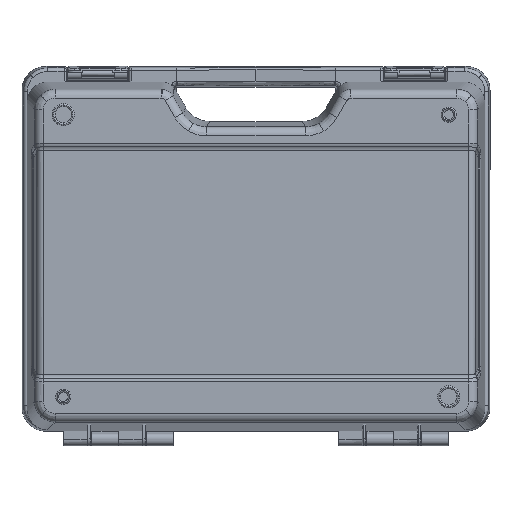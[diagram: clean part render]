
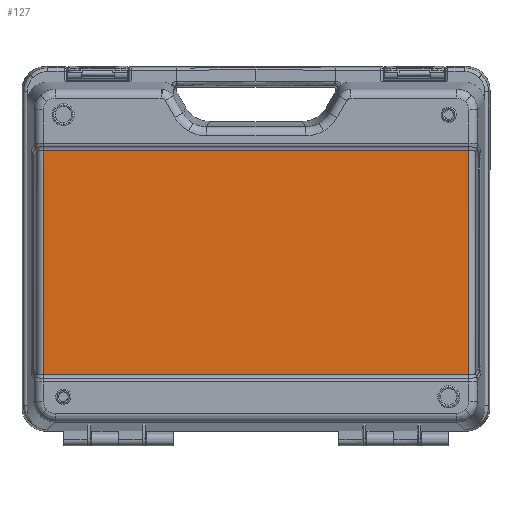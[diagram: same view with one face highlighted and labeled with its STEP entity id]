
A CAD part, front view. The second image highlights one B-rep face of the part: STEP entity #127.
In plain terms, the highlighted planar face has unit normal (0, -1, 0).
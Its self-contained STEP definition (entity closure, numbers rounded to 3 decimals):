
#127 = ADVANCED_FACE ( 'NONE', ( #34428 ), #36496, .T. ) ;
#216 = VERTEX_POINT ( 'NONE', #30732 ) ;
#727 = DIRECTION ( 'NONE',  ( 0., 0., -1. ) ) ;
#1133 = VECTOR ( 'NONE', #11629, 1000. ) ;
#1729 = CARTESIAN_POINT ( 'NONE',  ( 154.463, -79.5, 76.429 ) ) ;
#2067 = EDGE_CURVE ( 'NONE', #25756, #2828, #7592, .T. ) ;
#2285 = DIRECTION ( 'NONE',  ( -1., 0., 0. ) ) ;
#2678 = EDGE_CURVE ( 'NONE', #30421, #25756, #18341, .T. ) ;
#2828 = VERTEX_POINT ( 'NONE', #1729 ) ;
#5035 = CARTESIAN_POINT ( 'NONE',  ( 154.463, -79.5, -90. ) ) ;
#5373 = VECTOR ( 'NONE', #2285, 1000. ) ;
#5580 = DIRECTION ( 'NONE',  ( 1., 0., 0. ) ) ;
#7592 = LINE ( 'NONE', #5035, #1133 ) ;
#10414 = DIRECTION ( 'NONE',  ( 0., 0., -1. ) ) ;
#11146 = ORIENTED_EDGE ( 'NONE', *, *, #37750, .T. ) ;
#11629 = DIRECTION ( 'NONE',  ( 0., 0., 1. ) ) ;
#11671 = CARTESIAN_POINT ( 'NONE',  ( 154.463, -79.5, -86.429 ) ) ;
#11865 = CARTESIAN_POINT ( 'NONE',  ( -154.463, -79.5, 76.429 ) ) ;
#13579 = EDGE_CURVE ( 'NONE', #216, #30421, #25534, .T. ) ;
#17290 = ORIENTED_EDGE ( 'NONE', *, *, #2067, .T. ) ;
#18341 = LINE ( 'NONE', #28402, #31165 ) ;
#20622 = CARTESIAN_POINT ( 'NONE',  ( -175., -79.5, -90. ) ) ;
#25534 = LINE ( 'NONE', #38608, #28061 ) ;
#25756 = VERTEX_POINT ( 'NONE', #11671 ) ;
#27289 = DIRECTION ( 'NONE',  ( 0., -1., 0. ) ) ;
#28061 = VECTOR ( 'NONE', #727, 1000. ) ;
#28343 = AXIS2_PLACEMENT_3D ( 'NONE', #20622, #27289, #10414 ) ;
#28402 = CARTESIAN_POINT ( 'NONE',  ( 154.463, -79.5, -86.429 ) ) ;
#30421 = VERTEX_POINT ( 'NONE', #30980 ) ;
#30732 = CARTESIAN_POINT ( 'NONE',  ( -154.463, -79.5, 76.429 ) ) ;
#30980 = CARTESIAN_POINT ( 'NONE',  ( -154.463, -79.5, -86.429 ) ) ;
#31165 = VECTOR ( 'NONE', #5580, 1000. ) ;
#34428 = FACE_OUTER_BOUND ( 'NONE', #40889, .T. ) ;
#34807 = ORIENTED_EDGE ( 'NONE', *, *, #2678, .T. ) ;
#35847 = ORIENTED_EDGE ( 'NONE', *, *, #13579, .T. ) ;
#36496 = PLANE ( 'NONE',  #28343 ) ;
#37750 = EDGE_CURVE ( 'NONE', #2828, #216, #40958, .T. ) ;
#38608 = CARTESIAN_POINT ( 'NONE',  ( -154.463, -79.5, -90. ) ) ;
#40889 = EDGE_LOOP ( 'NONE', ( #35847, #34807, #17290, #11146 ) ) ;
#40958 = LINE ( 'NONE', #11865, #5373 ) ;
